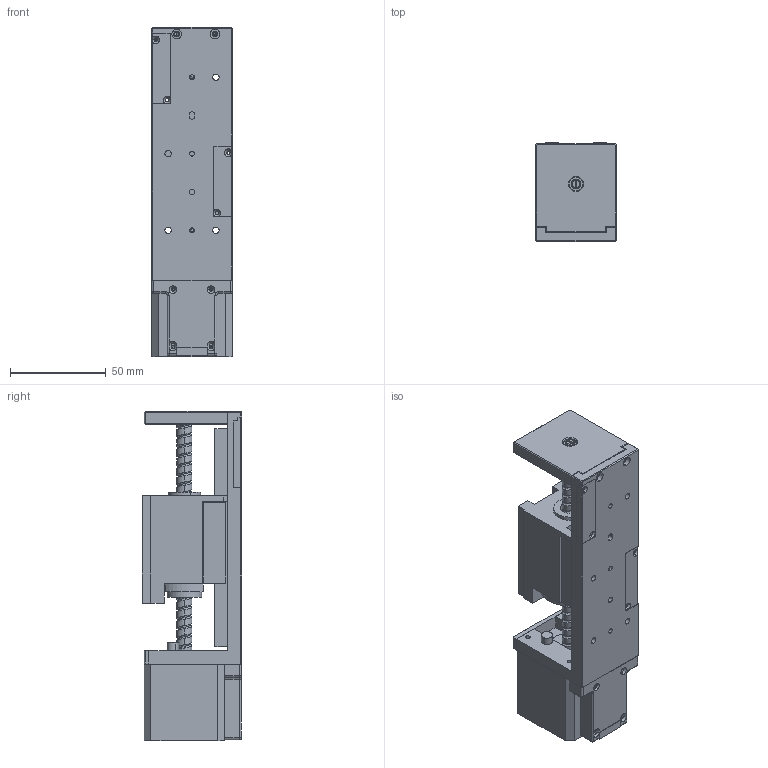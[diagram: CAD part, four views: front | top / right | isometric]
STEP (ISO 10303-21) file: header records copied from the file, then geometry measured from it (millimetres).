
FILE_DESCRIPTION (( 'STEP AP203' ), '1' );
FILE_NAME ('EML42A40-B0550.STEP', '2023-11-10T09:36:31', ( '' ), ( '' ), 'SwSTEP 2.0', 'SolidWorks 2023', '' );
FILE_SCHEMA (( 'CONFIG_CONTROL_DESIGN' ));
Length unit declared in the file: millimetre
Products named in the file (16): 28-42前导光片; 42A40端子盖; MGN15-114导轨; 0805螺母; 防撞牛筋柱3-6-4; MGN15C滑块; 42单边桥; 42光电安装座; 28-42后导光片; 42经济模组轴承座; 42-50光电经济模组基座; XY-1064; 28-42端子线路板; 42A40-GZ0805-132电机; JFM0507-05; EML42A40-B0550
Assembly tree (16 placements, depth 2):
  EML42A40-B0550
    42-50光电经济模组基座
    MGN15-114导轨
    MGN15C滑块
    42光电安装座
    42经济模组轴承座
    42A40-GZ0805-132电机
    0805螺母
    42单边桥
    JFM0507-05
    XY-1064
    防撞牛筋柱3-6-4  x2
    28-42前导光片
    28-42后导光片
    42A40端子盖
    28-42端子线路板
Bounding box: 42 x 52 x 172 mm (x, y, z)
Volume: 203093.7 mm3; surface area: 78826.7 mm2
Topology: 16 solids, 16 shells, 755 faces, 1990 edges, 1243 vertices
Faces by surface type: cylinder 344, plane 304, cone 90, torus 7, bspline 6, sphere 4
Entity records: 35734 total; most frequent: CARTESIAN_POINT 15410, DIRECTION 3946, ORIENTED_EDGE 3840, EDGE_CURVE 1920, AXIS2_PLACEMENT_3D 1405, VERTEX_POINT 1235, LINE 1136, VECTOR 1136
